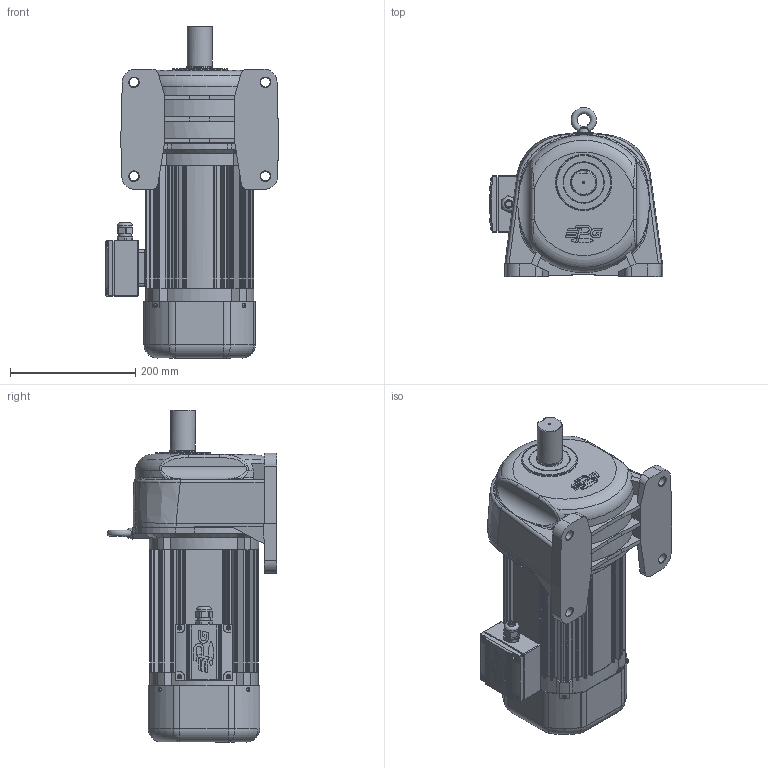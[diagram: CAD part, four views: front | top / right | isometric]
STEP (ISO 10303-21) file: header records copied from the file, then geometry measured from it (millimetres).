
FILE_DESCRIPTION(/* description */ (''),/* implementation_level */ '2;1');
FILE_NAME(/* name */ 'Z:\작업\이재복 기사님\진행중\도면작성\201216 - 중국 송부용 3D\PAL40-40-PC150R5L.stp',/* time_stamp */ '2020-12-16T14:23:20+09:00',/* author */ ('pch0107'),/* organization */ (''),/* preprocessor_version */ 'ST-DEVELOPER v17',/* originating_system */ 'Autodesk Inventor 2019',/* authorisation */ '');
FILE_SCHEMA (('AUTOMOTIVE_DESIGN { 1 0 10303 214 3 1 1 }'));
Length unit declared in the file: millimetre
Products named in the file (1): 부품3
Bounding box: 276.5 x 270.29 x 530.3 mm (x, y, z)
Volume: 5425043 mm3; surface area: 1107890.8 mm2
Topology: 14 solids, 38 shells, 1870 faces, 5091 edges, 3339 vertices
Faces by surface type: plane 895, cylinder 707, cone 130, torus 64, bspline 52, sphere 22
Full cylindrical faces by diameter (mm): 2 x2, 3.2 x4, 3.25 x1, 3.6 x4, 4 x22, 4.917 x5, 5 x13, 6 x5, 6.647 x1, 6.8 x4, 7 x12, 8 x5, 8.8 x4, 10 x1, 12.5 x1, 15 x5, 20 x2, 21 x1, 23.6 x1, 25 x1, 27.8 x1, 28 x1, 35.4 x1, 36 x1, 39.8 x2, 40 x2, 41.8 x1, 42 x2, 45 x1, 60.3 x1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
Entity records: 65730 total; most frequent: CARTESIAN_POINT 16544, DIRECTION 10367, ORIENTED_EDGE 10112, EDGE_CURVE 5056, AXIS2_PLACEMENT_3D 3915, VERTEX_POINT 3339, LINE 2537, VECTOR 2537
